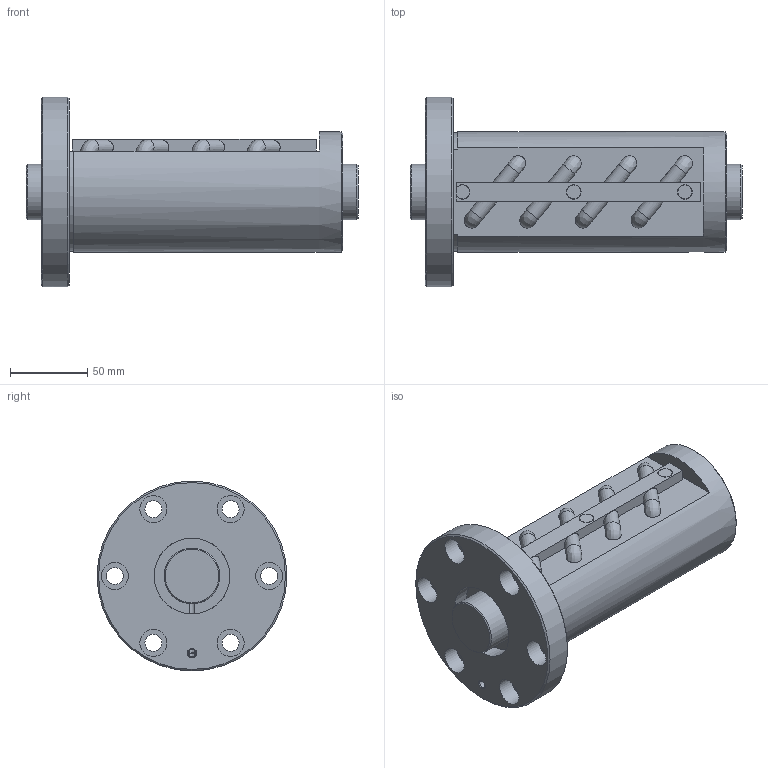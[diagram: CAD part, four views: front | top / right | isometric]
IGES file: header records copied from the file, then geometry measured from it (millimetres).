
Start section: Data from Parasolid IGES Translator 26.0.171, Copyright(c) 2006 Siemens PLM Software. All Rights Reserved.
Global section: file name: BIF3612V-10RRG0+215LC0_000.igs; native system: By Siemens PLM Incorporated; preprocessor: XPlus GENERIC/IGES 26.0.171; author: Noname; organization: Noname; date: 20240715.082345; units: millimetre
Bounding box: 215 x 123 x 123 mm (x, y, z)
Surface area: 129620.1 mm2 (no closed solid volume)
Topology: 0 solids, 0 shells, 118 faces, 571 edges, 525 vertices
Faces by surface type: revolution 65, extrusion 53
